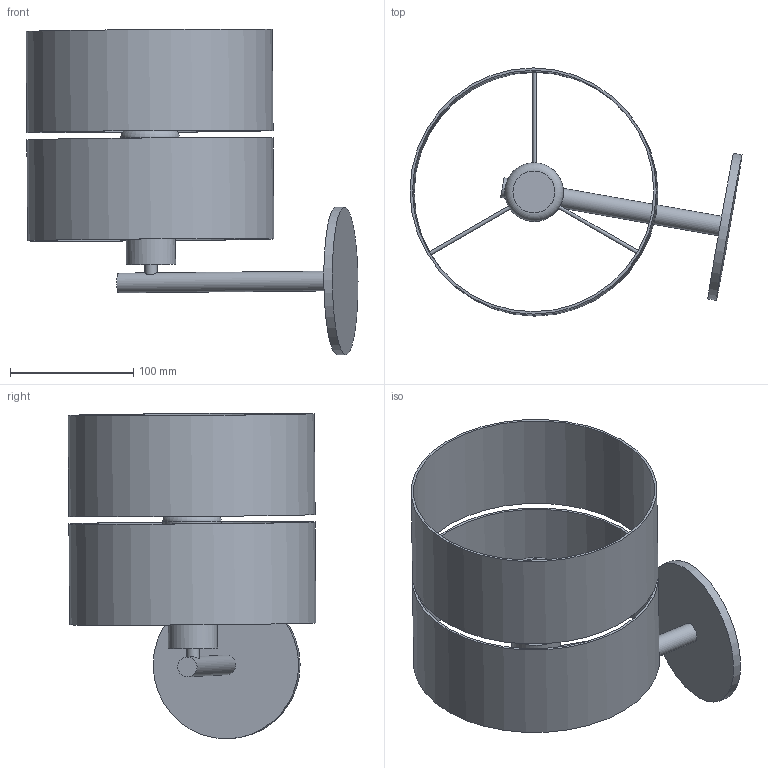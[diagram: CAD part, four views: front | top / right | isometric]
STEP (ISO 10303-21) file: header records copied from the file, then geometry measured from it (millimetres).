
FILE_DESCRIPTION(/* description */ (''),/* implementation_level */ '2;1');
FILE_NAME(/* name */ 'D:\TK Lighting\2021\_Hilton\Hilton 4344.stp',/* time_stamp */ '2021-04-02T13:26:12+02:00',/* author */ ('Admin'),/* organization */ (''),/* preprocessor_version */ 'ST-DEVELOPER v16.5',/* originating_system */ 'Autodesk Inventor 2017',/* authorisation */ '');
FILE_SCHEMA (('AUTOMOTIVE_DESIGN { 1 0 10303 214 3 1 1 }'));
Length unit declared in the file: millimetre
Products named in the file (3): Hilton 4344; Klosz Hilton 4344; Uchwyt Hilton 4344
Assembly tree (2 placements, depth 2):
  Hilton 4344
    Klosz Hilton 4344
    Uchwyt Hilton 4344
Bounding box: 269.63 x 201.31 x 264.48 mm (x, y, z)
Volume: 393796.1 mm3; surface area: 273123.2 mm2
Topology: 3 solids, 4 shells, 32 faces, 51 edges, 32 vertices
Faces by surface type: cylinder 15, plane 13, torus 4
Full cylindrical faces by diameter (mm): 3 x3, 10 x1, 16 x1, 29.005 x1, 31.005 x1, 40 x1, 45.559 x1, 47.559 x1, 120 x1, 196 x2, 200 x2
Entity records: 1005 total; most frequent: CARTESIAN_POINT 332, DIRECTION 124, EDGE_LOOP 64, ORIENTED_EDGE 64, AXIS2_PLACEMENT_3D 62, STYLED_ITEM 35, FACE_BOUND 32, FACE_OUTER_BOUND 32
